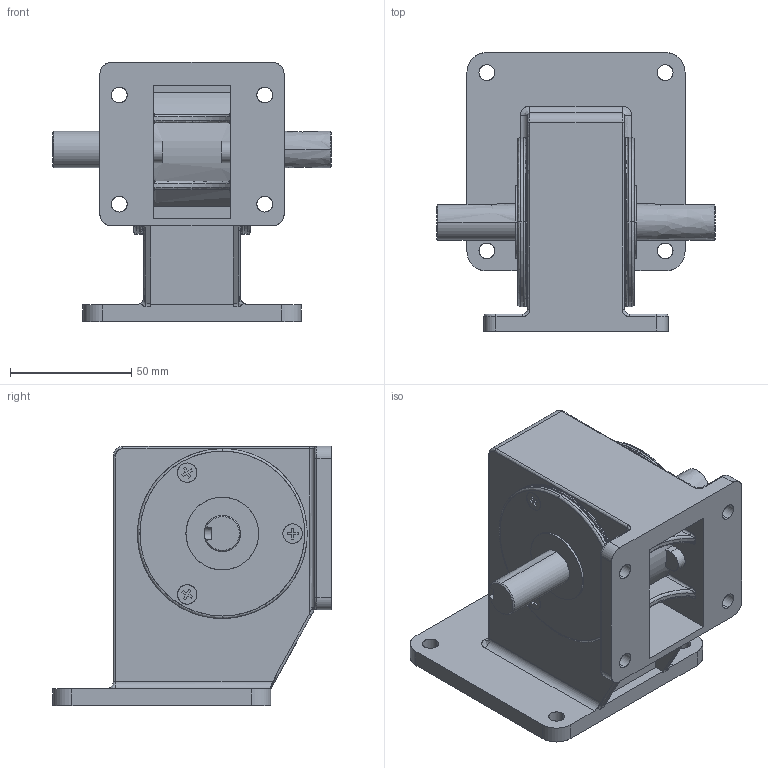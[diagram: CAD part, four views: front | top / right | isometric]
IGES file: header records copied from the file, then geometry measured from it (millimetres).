
Start section: SolidWorks IGES file using analytic representation for surfaces
Global section: file name: C:\Documents and Settings\user\官帕 拳搁\2015 墨呕肺弊 档搁荐沥\权其捞瘤 档搁\12. GEARBOX\(12-20) 9WD∴BRL.IGS; native system: SolidWorks 2007; preprocessor: SolidWorks 2007; author: user; date: 150410.142309; units: millimetre
Bounding box: 115 x 115 x 107 mm (x, y, z)
Surface area: 69519.9 mm2 (no closed solid volume)
Topology: 0 solids, 0 shells, 313 faces, 4030 edges, 4028 vertices
Faces by surface type: bspline 198, revolution 115
